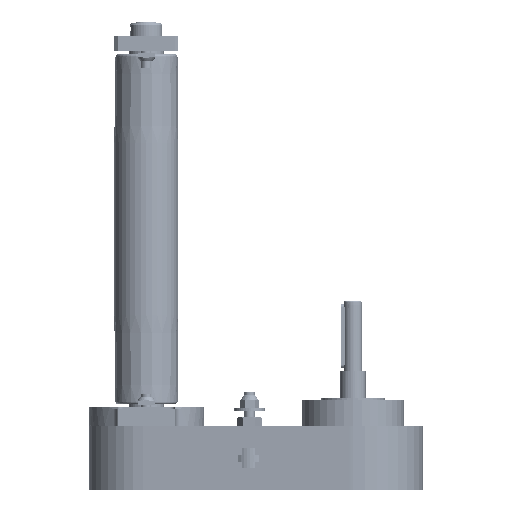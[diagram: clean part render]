
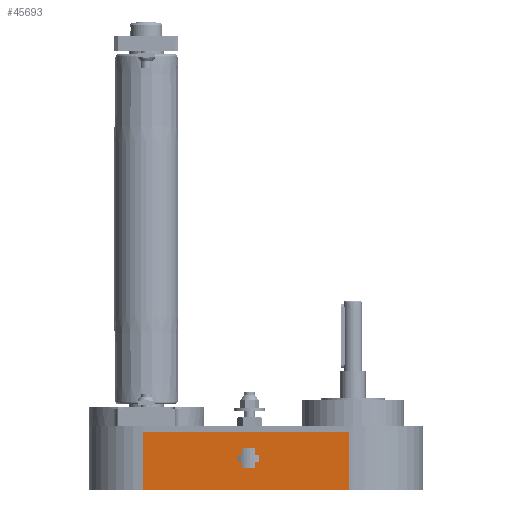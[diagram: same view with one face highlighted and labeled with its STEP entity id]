
A CAD part, left-side view. The second image highlights one B-rep face of the part: STEP entity #45693.
In plain terms, the highlighted planar face has unit normal (-0.998, 0.062, 0).
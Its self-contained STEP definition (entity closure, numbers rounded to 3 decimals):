
#5834 = CARTESIAN_POINT ( 'NONE',  ( -44.914, 164.286, 45. ) ) ;
#7790 = ORIENTED_EDGE ( 'NONE', *, *, #26776, .F. ) ;
#8795 = DIRECTION ( 'NONE',  ( 0.062, 0.998, 0. ) ) ;
#10960 = VECTOR ( 'NONE', #57121, 1000. ) ;
#11310 = VERTEX_POINT ( 'NONE', #33035 ) ;
#11602 = CARTESIAN_POINT ( 'NONE',  ( -44.914, 164.286, 0. ) ) ;
#13809 = LINE ( 'NONE', #14430, #14851 ) ;
#14430 = CARTESIAN_POINT ( 'NONE',  ( -54.894, 3.406, 1.5 ) ) ;
#14851 = VECTOR ( 'NONE', #80582, 1000. ) ;
#17029 = LINE ( 'NONE', #11602, #10960 ) ;
#21025 = FACE_OUTER_BOUND ( 'NONE', #38351, .T. ) ;
#23161 = VERTEX_POINT ( 'NONE', #25828 ) ;
#25828 = CARTESIAN_POINT ( 'NONE',  ( -54.894, 3.406, 45. ) ) ;
#26776 = EDGE_CURVE ( 'NONE', #23161, #66877, #13809, .T. ) ;
#27711 = ORIENTED_EDGE ( 'NONE', *, *, #60075, .T. ) ;
#29199 = LINE ( 'NONE', #5834, #45447 ) ;
#33035 = CARTESIAN_POINT ( 'NONE',  ( -44.914, 164.286, 0. ) ) ;
#36610 = CARTESIAN_POINT ( 'NONE',  ( -44.914, 164.286, 45. ) ) ;
#37297 = CARTESIAN_POINT ( 'NONE',  ( -54.894, 3.406, 0. ) ) ;
#38203 = EDGE_CURVE ( 'NONE', #67388, #23161, #29199, .T. ) ;
#38274 = DIRECTION ( 'NONE',  ( -0.062, -0.998, 0. ) ) ;
#38351 = EDGE_LOOP ( 'NONE', ( #39616, #7790, #76053, #27711 ) ) ;
#39616 = ORIENTED_EDGE ( 'NONE', *, *, #62942, .T. ) ;
#44211 = AXIS2_PLACEMENT_3D ( 'NONE', #78941, #72997, #8795 ) ;
#45041 = CARTESIAN_POINT ( 'NONE',  ( -44.914, 164.286, 1.5 ) ) ;
#45447 = VECTOR ( 'NONE', #38274, 1000. ) ;
#45693 = ADVANCED_FACE ( 'NONE', ( #21025 ), #59723, .F. ) ;
#51260 = DIRECTION ( 'NONE',  ( 0., 0., -1. ) ) ;
#57121 = DIRECTION ( 'NONE',  ( -0.062, -0.998, 0. ) ) ;
#59009 = VECTOR ( 'NONE', #51260, 1000. ) ;
#59723 = PLANE ( 'NONE',  #44211 ) ;
#60075 = EDGE_CURVE ( 'NONE', #67388, #11310, #76205, .T. ) ;
#62942 = EDGE_CURVE ( 'NONE', #11310, #66877, #17029, .T. ) ;
#66877 = VERTEX_POINT ( 'NONE', #37297 ) ;
#67388 = VERTEX_POINT ( 'NONE', #36610 ) ;
#72997 = DIRECTION ( 'NONE',  ( 0.998, -0.062, 0. ) ) ;
#76053 = ORIENTED_EDGE ( 'NONE', *, *, #38203, .F. ) ;
#76205 = LINE ( 'NONE', #45041, #59009 ) ;
#78941 = CARTESIAN_POINT ( 'NONE',  ( -44.914, 164.286, 1.5 ) ) ;
#80582 = DIRECTION ( 'NONE',  ( 0., 0., -1. ) ) ;
